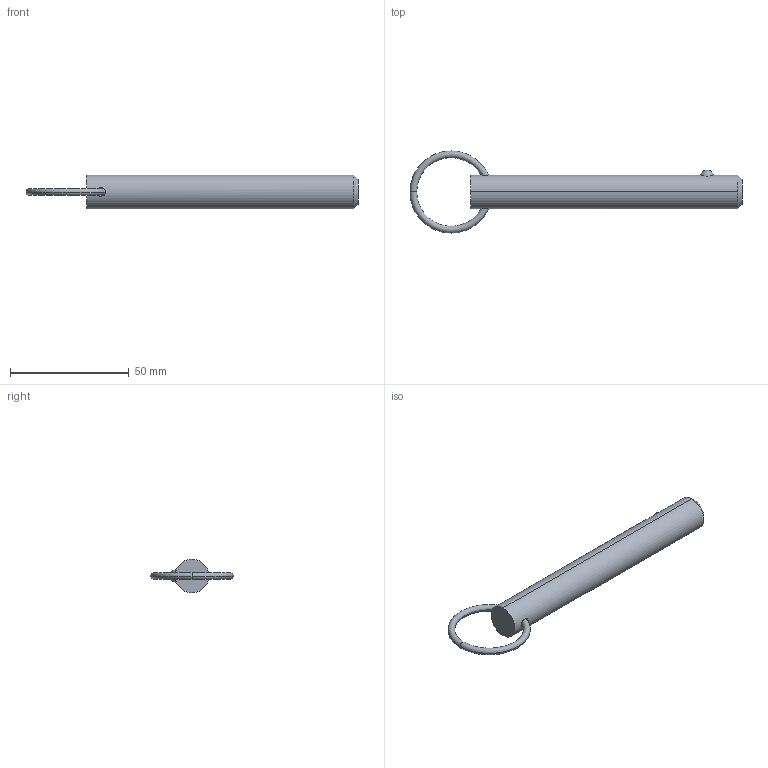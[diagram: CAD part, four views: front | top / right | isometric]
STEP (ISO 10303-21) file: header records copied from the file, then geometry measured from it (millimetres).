
FILE_DESCRIPTION (( 'STEP AP203' ), '1' );
FILE_NAME ('Default.step', '2024-11-01T14:05:22', ( '' ), ( '' ), 'SwSTEP 2.0', 'SolidWorks 2019', '' );
FILE_SCHEMA (( 'CONFIG_CONTROL_DESIGN' ));
Length unit declared in the file: millimetre
Products named in the file (3): Default; Part1; Part2
Assembly tree (2 placements, depth 2):
  Default
    Part1
    Part2
Bounding box: 139.8 x 34.59 x 14.22 mm (x, y, z)
Volume: 18603.6 mm3; surface area: 6420 mm2
Topology: 2 solids, 2 shells, 16 faces, 31 edges, 18 vertices
Faces by surface type: torus 8, sphere 2, cone 2, cylinder 2, plane 2
Entity records: 875 total; most frequent: CARTESIAN_POINT 232, DIRECTION 88, ORIENTED_EDGE 62, AXIS2_PLACEMENT_3D 42, EDGE_CURVE 31, PERSON_AND_ORGANIZATION 26, CIRCLE 21, DATE_AND_TIME 19
